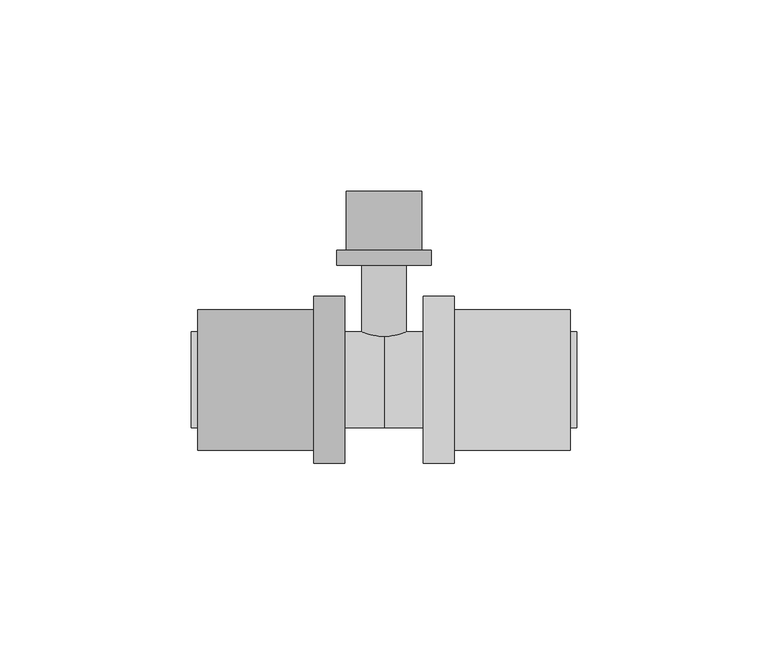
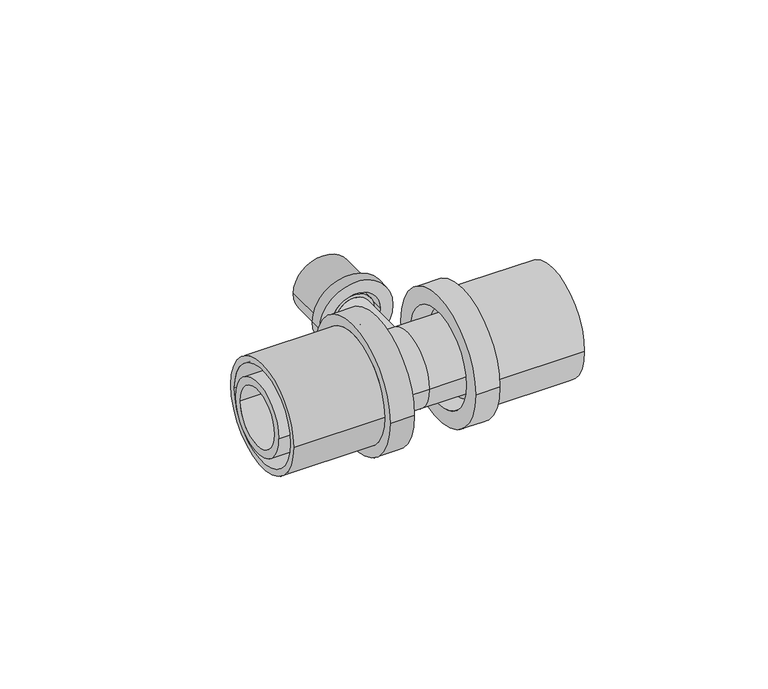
"""IFC4 building model written with IfcOpenShell, lengths in millimetres: pipe fitting geometry, FASTLOC_T-piece_EX+ : FSL T-Piece EX+ AT."""

from ifc_helpers import new_model, si_unit, frame, origin, place, context, project, spatial, polyline, circle_curve, source, transform, mapped, element, save
from ifc_brep_helpers import plane_surface, cylinder_surface, revolved_surface, advanced_brep


def pipe_fitting_22a72f01(model_context):
    return source(origin(), model_context, "Body", "AdvancedBrep", [
        advanced_brep(
        [(18.3, 21.8, 0.0), (18.3, -21.8, 0.0), (10.3, -21.8, 0.0), (10.3, 21.8, 0.0), (48.6, 18.35, 0.0), (48.6, -18.35, 0.0), (18.3, -18.35, 0.0), (18.3, 18.35, 0.0), (10.3, 16.2, 0.0), (10.3, -16.2, 0.0), (48.6, -16.2, 0.0), (48.6, 16.2, 0.0)],
        [
            (0, 1, circle_curve(frame((18.3, 0.0, 0.0), z_axis=(-1.0, 0.0, 0.0), x_axis=(0.0, -1.0, 0.0)), 21.8)),
            (1, 2),
            (2, 3, circle_curve(frame((10.3, 0.0, 0.0), z_axis=(1.0, 0.0, 0.0), x_axis=(0.0, -1.0, 0.0)), 21.8)),
            (3, 0),
            (4, 5, circle_curve(frame((48.6, 0.0, 0.0), z_axis=(-1.0, 0.0, 0.0), x_axis=(0.0, -1.0, 0.0)), 18.35)),
            (5, 6),
            (6, 7, circle_curve(frame((18.3, 0.0, 0.0), z_axis=(1.0, 0.0, 0.0), x_axis=(0.0, -1.0, 0.0)), 18.35)),
            (7, 4),
            (8, 9, circle_curve(frame((10.3, 0.0, 0.0), z_axis=(-1.0, 0.0, 0.0), x_axis=(0.0, -1.0, 0.0)), 16.2)),
            (9, 10),
            (10, 11, circle_curve(frame((48.6, 0.0, 0.0), z_axis=(1.0, 0.0, 0.0), x_axis=(0.0, -1.0, 0.0)), 16.2)),
            (11, 8),
            (1, 0, circle_curve(frame((18.3, 0.0, 0.0), z_axis=(-1.0, 0.0, 0.0), x_axis=(0.0, 1.0, 0.0)), 21.8)),
            (3, 2, circle_curve(frame((10.3, 0.0, 0.0), z_axis=(1.0, 0.0, 0.0), x_axis=(0.0, 1.0, 0.0)), 21.8)),
            (6, 7, circle_curve(frame((18.3, 0.0, 0.0), z_axis=(-1.0, 0.0, 0.0), x_axis=(0.0, 1.0, 0.0)), 18.35)),
            (5, 4, circle_curve(frame((48.6, 0.0, 0.0), z_axis=(-1.0, 0.0, 0.0), x_axis=(0.0, 1.0, 0.0)), 18.35)),
            (10, 11, circle_curve(frame((48.6, 0.0, 0.0), z_axis=(-1.0, 0.0, 0.0), x_axis=(0.0, 1.0, 0.0)), 16.2)),
            (9, 8, circle_curve(frame((10.3, 0.0, 0.0), z_axis=(-1.0, 0.0, 0.0), x_axis=(0.0, 1.0, 0.0)), 16.2)),
        ],
        [
            cylinder_surface(frame((10.3, 0.0, 0.0), z_axis=(1.0, 0.0, 0.0), x_axis=(0.0, -1.0, 0.0)), 21.8),
            cylinder_surface(frame((10.3, 0.0, 0.0), z_axis=(1.0, 0.0, 0.0), x_axis=(0.0, -1.0, 0.0)), 18.35),
            revolved_surface(polyline([(48.599999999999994, -16.2, 0.0), (10.3, -16.2, 0.0)]), (10.3, 0.0, 0.0), (1.0, 0.0, 0.0)),
            cylinder_surface(frame((10.3, 0.0, 0.0), z_axis=(1.0, 0.0, 0.0), x_axis=(0.0, 1.0, 0.0)), 21.8),
            plane_surface(frame((18.3, 0.0, 0.0), z_axis=(1.0, 0.0, 0.0), x_axis=(0.0, 1.0, 0.0))),
            cylinder_surface(frame((10.3, 0.0, 0.0), z_axis=(1.0, 0.0, 0.0), x_axis=(0.0, 1.0, 0.0)), 18.35),
            plane_surface(frame((48.6, 0.0, 0.0), z_axis=(1.0, 0.0, 0.0), x_axis=(0.0, 1.0, 0.0))),
            revolved_surface(polyline([(48.599999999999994, 16.2, 0.0), (10.3, 16.2, 0.0)]), (10.3, 0.0, 0.0), (1.0, 0.0, 0.0)),
            plane_surface(frame((10.3, 0.0, 0.0), z_axis=(-1.0, 0.0, 0.0), x_axis=(0.0, 1.0, 0.0))),
        ],
        [
            (0, [[1, 2, 3, 4]]),
            (1, [[5, 6, 7, 8]]),
            (2, [[9, 10, 11, 12]]),
            (3, [[13, -4, 14, -2]]),
            (4, [[-13, -1], [15, -7]]),
            (5, [[16, -8, -15, -6]]),
            (6, [[-16, -5], [17, -11]]),
            (7, [[18, -12, -17, -10]]),
            (8, [[-14, -3], [-18, -9]]),
        ],
    ),
        advanced_brep(
        [(-18.3, -21.8, 0.0), (-18.3, 21.8, 0.0), (-10.3, 21.8, 0.0), (-10.3, -21.8, 0.0), (-48.6, -18.35, 0.0), (-48.6, 18.35, 0.0), (-18.3, 18.35, 0.0), (-18.3, -18.35, 0.0), (-10.3, -16.2, 0.0), (-10.3, 16.2, 0.0), (-48.6, 16.2, 0.0), (-48.6, -16.2, 0.0)],
        [
            (0, 1, circle_curve(frame((-18.3, 0.0, 0.0), z_axis=(1.0, 0.0, 0.0), x_axis=(0.0, 1.0, 0.0)), 21.8)),
            (1, 2),
            (2, 3, circle_curve(frame((-10.3, 0.0, 0.0), z_axis=(-1.0, 0.0, 0.0), x_axis=(0.0, 1.0, 0.0)), 21.8)),
            (3, 0),
            (4, 5, circle_curve(frame((-48.6, 0.0, 0.0), z_axis=(1.0, 0.0, 0.0), x_axis=(0.0, 1.0, 0.0)), 18.35)),
            (5, 6),
            (6, 7, circle_curve(frame((-18.3, 0.0, 0.0), z_axis=(-1.0, 0.0, 0.0), x_axis=(0.0, 1.0, 0.0)), 18.35)),
            (7, 4),
            (8, 9, circle_curve(frame((-10.3, 0.0, 0.0), z_axis=(1.0, 0.0, 0.0), x_axis=(0.0, 1.0, 0.0)), 16.2)),
            (9, 10),
            (10, 11, circle_curve(frame((-48.6, 0.0, 0.0), z_axis=(-1.0, 0.0, 0.0), x_axis=(0.0, 1.0, 0.0)), 16.2)),
            (11, 8),
            (1, 0, circle_curve(frame((-18.3, 0.0, 0.0), z_axis=(1.0, 0.0, 0.0), x_axis=(0.0, -1.0, 0.0)), 21.8)),
            (3, 2, circle_curve(frame((-10.3, 0.0, 0.0), z_axis=(-1.0, 0.0, 0.0), x_axis=(0.0, -1.0, 0.0)), 21.8)),
            (6, 7, circle_curve(frame((-18.3, 0.0, 0.0), z_axis=(1.0, 0.0, 0.0), x_axis=(0.0, -1.0, 0.0)), 18.35)),
            (5, 4, circle_curve(frame((-48.6, 0.0, 0.0), z_axis=(1.0, 0.0, 0.0), x_axis=(0.0, -1.0, 0.0)), 18.35)),
            (10, 11, circle_curve(frame((-48.6, 0.0, 0.0), z_axis=(1.0, 0.0, 0.0), x_axis=(0.0, -1.0, 0.0)), 16.2)),
            (9, 8, circle_curve(frame((-10.3, 0.0, 0.0), z_axis=(1.0, 0.0, 0.0), x_axis=(0.0, -1.0, 0.0)), 16.2)),
        ],
        [
            cylinder_surface(frame((-10.3, 0.0, 0.0), z_axis=(-1.0, 0.0, 0.0), x_axis=(0.0, 1.0, 0.0)), 21.8),
            cylinder_surface(frame((-10.3, 0.0, 0.0), z_axis=(-1.0, 0.0, 0.0), x_axis=(0.0, 1.0, 0.0)), 18.35),
            revolved_surface(polyline([(-48.599999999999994, 16.2, 0.0), (-10.3, 16.2, 0.0)]), (-10.3, 0.0, 0.0), (-1.0, 0.0, 0.0)),
            cylinder_surface(frame((-10.3, 0.0, 0.0), z_axis=(-1.0, 0.0, 0.0), x_axis=(0.0, -1.0, 0.0)), 21.8),
            plane_surface(frame((-18.3, 0.0, 0.0), z_axis=(-1.0, 0.0, 0.0), x_axis=(0.0, -1.0, 0.0))),
            cylinder_surface(frame((-10.3, 0.0, 0.0), z_axis=(-1.0, 0.0, 0.0), x_axis=(0.0, -1.0, 0.0)), 18.35),
            plane_surface(frame((-48.6, 0.0, 0.0), z_axis=(-1.0, 0.0, 0.0), x_axis=(0.0, -1.0, 0.0))),
            revolved_surface(polyline([(-48.599999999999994, -16.2, 0.0), (-10.3, -16.2, 0.0)]), (-10.3, 0.0, 0.0), (-1.0, 0.0, 0.0)),
            plane_surface(frame((-10.3, 0.0, 0.0), z_axis=(1.0, 0.0, 0.0), x_axis=(0.0, -1.0, 0.0))),
        ],
        [
            (0, [[1, 2, 3, 4]]),
            (1, [[5, 6, 7, 8]]),
            (2, [[9, 10, 11, 12]]),
            (3, [[13, -4, 14, -2]]),
            (4, [[-13, -1], [15, -7]]),
            (5, [[16, -8, -15, -6]]),
            (6, [[-16, -5], [17, -11]]),
            (7, [[18, -12, -17, -10]]),
            (8, [[-14, -3], [-18, -9]]),
        ],
    ),
        advanced_brep(
        [(-12.35, 33.9, 0.0), (12.35, 33.9, 0.0), (12.35, 29.9, 0.0), (-12.35, 29.9, 0.0), (-9.85, 49.2, 0.0), (9.85, 49.2, 0.0), (9.85, 33.9, 0.0), (-9.85, 33.9, 0.0), (-8.15, 29.9, 0.0), (8.15, 29.9, 0.0), (8.15, 49.2, 0.0), (-8.15, 49.2, 0.0)],
        [
            (0, 1, circle_curve(frame((0.0, 33.9, 0.0), z_axis=(0.0, -1.0, 0.0), x_axis=(1.0, 0.0, 0.0)), 12.35)),
            (1, 2),
            (2, 3, circle_curve(frame((0.0, 29.9, 0.0), z_axis=(0.0, 1.0, 0.0), x_axis=(1.0, 0.0, 0.0)), 12.35)),
            (3, 0),
            (4, 5, circle_curve(frame((0.0, 49.2, 0.0), z_axis=(0.0, -1.0, 0.0), x_axis=(1.0, 0.0, 0.0)), 9.85)),
            (5, 6),
            (6, 7, circle_curve(frame((0.0, 33.9, 0.0), z_axis=(0.0, 1.0, 0.0), x_axis=(1.0, 0.0, 0.0)), 9.85)),
            (7, 4),
            (8, 9, circle_curve(frame((0.0, 29.9, 0.0), z_axis=(0.0, -1.0, 0.0), x_axis=(1.0, 0.0, 0.0)), 8.15)),
            (9, 10),
            (10, 11, circle_curve(frame((0.0, 49.2, 0.0), z_axis=(0.0, 1.0, 0.0), x_axis=(1.0, 0.0, 0.0)), 8.15)),
            (11, 8),
            (1, 0, circle_curve(frame((0.0, 33.9, 0.0), z_axis=(0.0, -1.0, 0.0), x_axis=(-1.0, 0.0, 0.0)), 12.35)),
            (3, 2, circle_curve(frame((0.0, 29.9, 0.0), z_axis=(0.0, 1.0, 0.0), x_axis=(-1.0, 0.0, 0.0)), 12.35)),
            (6, 7, circle_curve(frame((0.0, 33.9, 0.0), z_axis=(0.0, -1.0, 0.0), x_axis=(-1.0, 0.0, 0.0)), 9.85)),
            (5, 4, circle_curve(frame((0.0, 49.2, 0.0), z_axis=(0.0, -1.0, 0.0), x_axis=(-1.0, 0.0, 0.0)), 9.85)),
            (10, 11, circle_curve(frame((0.0, 49.2, 0.0), z_axis=(0.0, -1.0, 0.0), x_axis=(-1.0, 0.0, 0.0)), 8.15)),
            (9, 8, circle_curve(frame((0.0, 29.9, 0.0), z_axis=(0.0, -1.0, 0.0), x_axis=(-1.0, 0.0, 0.0)), 8.15)),
        ],
        [
            cylinder_surface(frame((0.0, 29.9, 0.0), z_axis=(0.0, 1.0, 0.0), x_axis=(1.0, 0.0, 0.0)), 12.35),
            cylinder_surface(frame((0.0, 29.9, 0.0), z_axis=(0.0, 1.0, 0.0), x_axis=(1.0, 0.0, 0.0)), 9.85),
            revolved_surface(polyline([(8.15, 49.2, 0.0), (8.15, 29.9, 0.0)]), (0.0, 29.9, 0.0), (0.0, 1.0, 0.0)),
            cylinder_surface(frame((0.0, 29.9, 0.0), z_axis=(0.0, 1.0, 0.0), x_axis=(-1.0, 0.0, 0.0)), 12.35),
            plane_surface(frame((0.0, 33.9, 0.0), z_axis=(0.0, 1.0, 0.0), x_axis=(-1.0, 0.0, 0.0))),
            cylinder_surface(frame((0.0, 29.9, 0.0), z_axis=(0.0, 1.0, 0.0), x_axis=(-1.0, 0.0, 0.0)), 9.85),
            plane_surface(frame((0.0, 49.2, 0.0), z_axis=(0.0, 1.0, 0.0), x_axis=(-1.0, 0.0, 0.0))),
            revolved_surface(polyline([(-8.15, 49.2, 0.0), (-8.15, 29.9, 0.0)]), (0.0, 29.9, 0.0), (0.0, 1.0, 0.0)),
            plane_surface(frame((0.0, 29.9, 0.0), z_axis=(0.0, -1.0, 0.0), x_axis=(-1.0, 0.0, 0.0))),
        ],
        [
            (0, [[1, 2, 3, 4]]),
            (1, [[5, 6, 7, 8]]),
            (2, [[9, 10, 11, 12]]),
            (3, [[13, -4, 14, -2]]),
            (4, [[-13, -1], [15, -7]]),
            (5, [[16, -8, -15, -6]]),
            (6, [[-16, -5], [17, -11]]),
            (7, [[18, -12, -17, -10]]),
            (8, [[-14, -3], [-18, -9]]),
        ],
    ),
        advanced_brep(
        [(0.0, 12.5, 0.0), (0.0, -12.5, 0.0), (-15.3, -12.5, 0.0), (-15.3, 12.5, 0.0), (15.3, 12.5, 0.0), (15.3, -12.5, 0.0), (18.3, 14.1, 0.0), (18.3, -14.1, 0.0), (15.3, -14.1, 0.0), (15.3, 14.1, 0.0), (50.3, 12.5, 0.0), (50.3, -12.5, 0.0), (18.3, -12.5, 0.0), (18.3, 12.5, 0.0), (-50.3, 9.85, 0.0), (-50.3, -9.85, 0.0), (50.3, -9.85, 0.0), (50.3, 9.85, 0.0), (-18.3, 12.5, 0.0), (-18.3, -12.5, 0.0), (-50.3, -12.5, 0.0), (-50.3, 12.5, 0.0), (-15.3, 14.1, 0.0), (-15.3, -14.1, 0.0), (-18.3, -14.1, 0.0), (-18.3, 14.1, 0.0)],
        [
            (0, 1, circle_curve(frame((0.0, 0.0, 0.0), z_axis=(-1.0, 0.0, 0.0), x_axis=(0.0, -1.0, 0.0)), 12.5)),
            (1, 2),
            (2, 3, circle_curve(frame((-15.3, 0.0, 0.0), z_axis=(1.0, 0.0, 0.0), x_axis=(0.0, -1.0, 0.0)), 12.5)),
            (3, 0),
            (4, 5, circle_curve(frame((15.3, 0.0, 0.0), z_axis=(-1.0, 0.0, 0.0), x_axis=(0.0, -1.0, 0.0)), 12.5)),
            (5, 1),
            (0, 4),
            (6, 7, circle_curve(frame((18.3, 0.0, 0.0), z_axis=(-1.0, 0.0, 0.0), x_axis=(0.0, -1.0, 0.0)), 14.1)),
            (7, 8),
            (8, 9, circle_curve(frame((15.3, 0.0, 0.0), z_axis=(1.0, 0.0, 0.0), x_axis=(0.0, -1.0, 0.0)), 14.1)),
            (9, 6),
            (10, 11, circle_curve(frame((50.3, 0.0, 0.0), z_axis=(-1.0, 0.0, 0.0), x_axis=(0.0, -1.0, 0.0)), 12.5)),
            (11, 12),
            (12, 13, circle_curve(frame((18.3, 0.0, 0.0), z_axis=(1.0, 0.0, 0.0), x_axis=(0.0, -1.0, 0.0)), 12.5)),
            (13, 10),
            (14, 15, circle_curve(frame((-50.3, 0.0, 0.0), z_axis=(-1.0, 0.0, 0.0), x_axis=(0.0, -1.0, 0.0)), 9.85)),
            (15, 16),
            (16, 17, circle_curve(frame((50.3, 0.0, 0.0), z_axis=(1.0, 0.0, 0.0), x_axis=(0.0, -1.0, 0.0)), 9.85)),
            (17, 14),
            (18, 19, circle_curve(frame((-18.3, 0.0, 0.0), z_axis=(-1.0, 0.0, 0.0), x_axis=(0.0, -1.0, 0.0)), 12.5)),
            (19, 20),
            (20, 21, circle_curve(frame((-50.3, 0.0, 0.0), z_axis=(1.0, 0.0, 0.0), x_axis=(0.0, -1.0, 0.0)), 12.5)),
            (21, 18),
            (22, 23, circle_curve(frame((-15.3, 0.0, 0.0), z_axis=(-1.0, 0.0, 0.0), x_axis=(0.0, -1.0, 0.0)), 14.1)),
            (23, 24),
            (24, 25, circle_curve(frame((-18.3, 0.0, 0.0), z_axis=(1.0, 0.0, 0.0), x_axis=(0.0, -1.0, 0.0)), 14.1)),
            (25, 22),
            (22, 23, circle_curve(frame((-15.3, 0.0, 0.0), z_axis=(1.0, 0.0, 0.0), x_axis=(0.0, 1.0, 0.0)), 14.1)),
            (2, 3, circle_curve(frame((-15.3, 0.0, 0.0), z_axis=(-1.0, 0.0, 0.0), x_axis=(0.0, 1.0, 0.0)), 12.5)),
            (1, 0, circle_curve(frame((0.0, 0.0, 0.0), z_axis=(-1.0, 0.0, 0.0), x_axis=(0.0, 1.0, 0.0)), 12.5)),
            (5, 4, circle_curve(frame((15.3, 0.0, 0.0), z_axis=(-1.0, 0.0, 0.0), x_axis=(0.0, 1.0, 0.0)), 12.5)),
            (8, 9, circle_curve(frame((15.3, 0.0, 0.0), z_axis=(-1.0, 0.0, 0.0), x_axis=(0.0, 1.0, 0.0)), 14.1)),
            (7, 6, circle_curve(frame((18.3, 0.0, 0.0), z_axis=(-1.0, 0.0, 0.0), x_axis=(0.0, 1.0, 0.0)), 14.1)),
            (12, 13, circle_curve(frame((18.3, 0.0, 0.0), z_axis=(-1.0, 0.0, 0.0), x_axis=(0.0, 1.0, 0.0)), 12.5)),
            (11, 10, circle_curve(frame((50.3, 0.0, 0.0), z_axis=(-1.0, 0.0, 0.0), x_axis=(0.0, 1.0, 0.0)), 12.5)),
            (16, 17, circle_curve(frame((50.3, 0.0, 0.0), z_axis=(-1.0, 0.0, 0.0), x_axis=(0.0, 1.0, 0.0)), 9.85)),
            (15, 14, circle_curve(frame((-50.3, 0.0, 0.0), z_axis=(-1.0, 0.0, 0.0), x_axis=(0.0, 1.0, 0.0)), 9.85)),
            (20, 21, circle_curve(frame((-50.3, 0.0, 0.0), z_axis=(-1.0, 0.0, 0.0), x_axis=(0.0, 1.0, 0.0)), 12.5)),
            (19, 18, circle_curve(frame((-18.3, 0.0, 0.0), z_axis=(-1.0, 0.0, 0.0), x_axis=(0.0, 1.0, 0.0)), 12.5)),
            (24, 25, circle_curve(frame((-18.3, 0.0, 0.0), z_axis=(-1.0, 0.0, 0.0), x_axis=(0.0, 1.0, 0.0)), 14.1)),
        ],
        [
            cylinder_surface(frame((0.0, 0.0, 0.0), z_axis=(1.0, 0.0, 0.0), x_axis=(0.0, -1.0, 0.0)), 12.5),
            cylinder_surface(frame((0.0, 0.0, 0.0), z_axis=(1.0, 0.0, 0.0), x_axis=(0.0, -1.0, 0.0)), 14.1),
            revolved_surface(polyline([(50.3, -9.85, 0.0), (-50.3, -9.85, 0.0)]), (0.0, 0.0, 0.0), (1.0, 0.0, 0.0)),
            plane_surface(frame((-15.3, 0.0, 0.0), z_axis=(1.0, 0.0, 0.0), x_axis=(0.0, 1.0, 0.0))),
            cylinder_surface(frame((0.0, 0.0, 0.0), z_axis=(1.0, 0.0, 0.0), x_axis=(0.0, 1.0, 0.0)), 12.5),
            plane_surface(frame((15.3, 0.0, 0.0), z_axis=(-1.0, 0.0, 0.0), x_axis=(0.0, 1.0, 0.0))),
            cylinder_surface(frame((0.0, 0.0, 0.0), z_axis=(1.0, 0.0, 0.0), x_axis=(0.0, 1.0, 0.0)), 14.1),
            plane_surface(frame((18.3, 0.0, 0.0), z_axis=(1.0, 0.0, 0.0), x_axis=(0.0, 1.0, 0.0))),
            plane_surface(frame((50.3, 0.0, 0.0), z_axis=(1.0, 0.0, 0.0), x_axis=(0.0, 1.0, 0.0))),
            revolved_surface(polyline([(50.3, 9.85, 0.0), (-50.3, 9.85, 0.0)]), (0.0, 0.0, 0.0), (1.0, 0.0, 0.0)),
            plane_surface(frame((-50.3, 0.0, 0.0), z_axis=(-1.0, 0.0, 0.0), x_axis=(0.0, 1.0, 0.0))),
            plane_surface(frame((-18.3, 0.0, 0.0), z_axis=(-1.0, 0.0, 0.0), x_axis=(0.0, 1.0, 0.0))),
        ],
        [
            (0, [[1, 2, 3, 4]]),
            (0, [[5, 6, -1, 7]]),
            (1, [[8, 9, 10, 11]]),
            (0, [[12, 13, 14, 15]]),
            (2, [[16, 17, 18, 19]]),
            (0, [[20, 21, 22, 23]]),
            (1, [[24, 25, 26, 27]]),
            (3, [[28, -24], [29, -3]]),
            (4, [[30, -4, -29, -2]]),
            (4, [[31, -7, -30, -6]]),
            (5, [[32, -10], [-31, -5]]),
            (6, [[33, -11, -32, -9]]),
            (7, [[-33, -8], [34, -14]]),
            (4, [[35, -15, -34, -13]]),
            (8, [[-35, -12], [36, -18]]),
            (9, [[37, -19, -36, -17]]),
            (10, [[38, -22], [-37, -16]]),
            (4, [[39, -23, -38, -21]]),
            (11, [[40, -26], [-39, -20]]),
            (6, [[-28, -27, -40, -25]]),
        ],
    ),
        advanced_brep(
        [(3.95, 48.9, 0.0), (-3.95, 48.9, 0.0), (-3.95, 0.0, 0.0), (3.95, 0.0, 0.0), (5.8, 0.0, 0.0), (-5.8, 0.0, 0.0), (-5.8, 31.19, 0.0), (5.8, 31.19, 0.0), (6.9, 31.19, 0.0), (-6.9, 31.19, 0.0), (-6.9, 33.9, 0.0), (6.9, 33.9, 0.0), (5.8, 33.9, 0.0), (-5.8, 33.9, 0.0), (-5.8, 48.9, 0.0), (5.8, 48.9, 0.0)],
        [
            (0, 1, circle_curve(frame((0.0, 48.9, 0.0), z_axis=(0.0, 1.0, 0.0), x_axis=(-1.0, 0.0, 0.0)), 3.95)),
            (1, 2),
            (2, 3, circle_curve(frame((0.0, 0.0, 0.0), z_axis=(0.0, -1.0, 0.0), x_axis=(-1.0, 0.0, 0.0)), 3.95)),
            (3, 0),
            (4, 5, circle_curve(frame((0.0, 0.0, 0.0), z_axis=(0.0, 1.0, 0.0), x_axis=(-1.0, 0.0, 0.0)), 5.8)),
            (5, 6),
            (6, 7, circle_curve(frame((0.0, 31.19, 0.0), z_axis=(0.0, -1.0, 0.0), x_axis=(-1.0, 0.0, 0.0)), 5.8)),
            (7, 4),
            (8, 9, circle_curve(frame((0.0, 31.19, 0.0), z_axis=(0.0, 1.0, 0.0), x_axis=(-1.0, 0.0, 0.0)), 6.9)),
            (9, 10),
            (10, 11, circle_curve(frame((0.0, 33.9, 0.0), z_axis=(0.0, -1.0, 0.0), x_axis=(-1.0, 0.0, 0.0)), 6.9)),
            (11, 8),
            (12, 13, circle_curve(frame((0.0, 33.9, 0.0), z_axis=(0.0, 1.0, 0.0), x_axis=(-1.0, 0.0, 0.0)), 5.8)),
            (13, 14),
            (14, 15, circle_curve(frame((0.0, 48.9, 0.0), z_axis=(0.0, -1.0, 0.0), x_axis=(-1.0, 0.0, 0.0)), 5.8)),
            (15, 12),
            (1, 0, circle_curve(frame((0.0, 48.9, 0.0), z_axis=(0.0, 1.0, 0.0), x_axis=(1.0, 0.0, 0.0)), 3.95)),
            (3, 2, circle_curve(frame((0.0, 0.0, 0.0), z_axis=(0.0, -1.0, 0.0), x_axis=(1.0, 0.0, 0.0)), 3.95)),
            (4, 5, circle_curve(frame((0.0, 0.0, 0.0), z_axis=(0.0, -1.0, 0.0), x_axis=(1.0, 0.0, 0.0)), 5.8)),
            (7, 6, circle_curve(frame((0.0, 31.19, 0.0), z_axis=(0.0, -1.0, 0.0), x_axis=(1.0, 0.0, 0.0)), 5.8)),
            (8, 9, circle_curve(frame((0.0, 31.19, 0.0), z_axis=(0.0, -1.0, 0.0), x_axis=(1.0, 0.0, 0.0)), 6.9)),
            (11, 10, circle_curve(frame((0.0, 33.9, 0.0), z_axis=(0.0, -1.0, 0.0), x_axis=(1.0, 0.0, 0.0)), 6.9)),
            (12, 13, circle_curve(frame((0.0, 33.9, 0.0), z_axis=(0.0, -1.0, 0.0), x_axis=(1.0, 0.0, 0.0)), 5.8)),
            (15, 14, circle_curve(frame((0.0, 48.9, 0.0), z_axis=(0.0, -1.0, 0.0), x_axis=(1.0, 0.0, 0.0)), 5.8)),
        ],
        [
            revolved_surface(polyline([(-3.95, 0.0, 0.0), (-3.95, 48.9, 0.0)]), (0.0, 0.0, 0.0), (0.0, -1.0, 0.0)),
            cylinder_surface(frame((0.0, 0.0, 0.0), z_axis=(0.0, -1.0, 0.0), x_axis=(-1.0, 0.0, 0.0)), 5.8),
            cylinder_surface(frame((0.0, 0.0, 0.0), z_axis=(0.0, -1.0, 0.0), x_axis=(-1.0, 0.0, 0.0)), 6.9),
            revolved_surface(polyline([(3.95, 0.0, 0.0), (3.95, 48.9, 0.0)]), (0.0, 0.0, 0.0), (0.0, -1.0, 0.0)),
            plane_surface(frame((0.0, 0.0, 0.0), z_axis=(0.0, -1.0, 0.0), x_axis=(1.0, 0.0, 0.0))),
            cylinder_surface(frame((0.0, 0.0, 0.0), z_axis=(0.0, -1.0, 0.0), x_axis=(1.0, 0.0, 0.0)), 5.8),
            plane_surface(frame((0.0, 31.19, 0.0), z_axis=(0.0, -1.0, 0.0), x_axis=(1.0, 0.0, 0.0))),
            cylinder_surface(frame((0.0, 0.0, 0.0), z_axis=(0.0, -1.0, 0.0), x_axis=(1.0, 0.0, 0.0)), 6.9),
            plane_surface(frame((0.0, 33.9, 0.0), z_axis=(0.0, 1.0, 0.0), x_axis=(1.0, 0.0, 0.0))),
            plane_surface(frame((0.0, 48.9, 0.0), z_axis=(0.0, 1.0, 0.0), x_axis=(1.0, 0.0, 0.0))),
        ],
        [
            (0, [[1, 2, 3, 4]]),
            (1, [[5, 6, 7, 8]]),
            (2, [[9, 10, 11, 12]]),
            (1, [[13, 14, 15, 16]]),
            (3, [[17, -4, 18, -2]]),
            (4, [[19, -5], [-18, -3]]),
            (5, [[-19, -8, 20, -6]]),
            (6, [[21, -9], [-20, -7]]),
            (7, [[-21, -12, 22, -10]]),
            (8, [[-22, -11], [23, -13]]),
            (5, [[-23, -16, 24, -14]]),
            (9, [[-24, -15], [-17, -1]]),
        ],
    ),
    ])


if __name__ == "__main__":
    model = new_model("IFC4")
    model_context = context("Model", 3, world=origin())
    ifc_project = project(units=[si_unit("LENGTHUNIT", "METRE", prefix="MILLI")], contexts=[model_context])
    site = spatial("IfcSite", under=ifc_project)
    building = spatial("IfcBuilding", under=site)
    placement = place(None, origin())
    pipe_fitting_shape = pipe_fitting_22a72f01(model_context)
    element("IfcPipeFitting", 1, ObjectType="FASTLOC_T-piece_EX+ : FSL T-Piece EX+ AT", at=placement, inside=building, context=model_context, shape_type="MappedRepresentation", body=[
        mapped(pipe_fitting_shape, transform((0.0, 0.0, 0.0), x_axis=(1.0, 0.0, 0.0), y_axis=(0.0, 1.0, 0.0), z_axis=(0.0, 0.0, 1.0))),
    ])
    save(model, "model.ifc")
